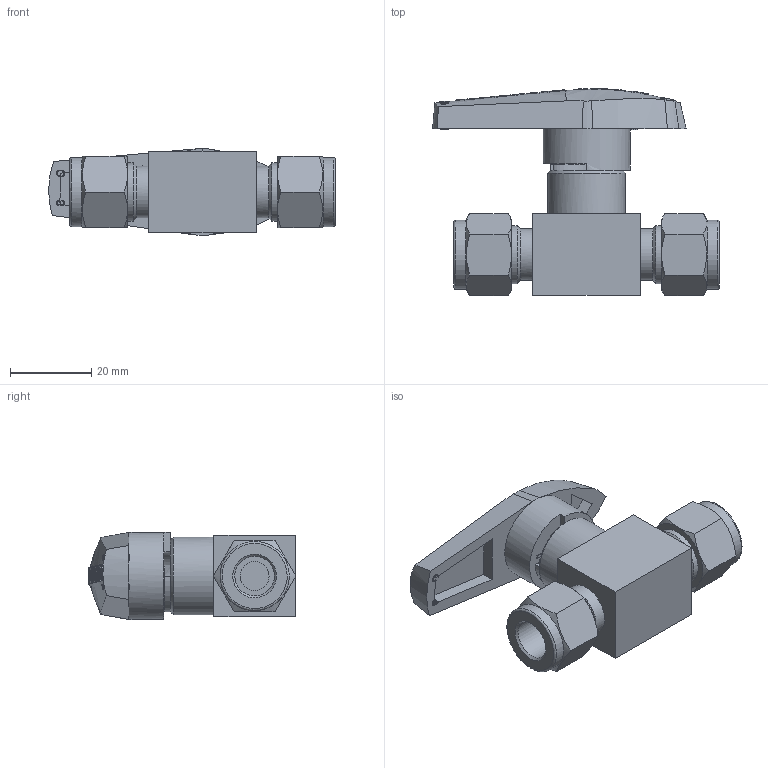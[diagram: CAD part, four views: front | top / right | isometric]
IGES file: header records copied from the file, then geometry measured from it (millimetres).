
Global section: file name: SBV120H2-S6-S316; native system: Autodesk Inventor 2016; preprocessor: unknown; author: 이승민,,11,0; organization: 20161215.102002; date: 20161216.191225; units: millimetre
Bounding box: 70.5 x 50.95 x 21.4 mm (x, y, z)
Volume: 27013.7 mm3; surface area: 11902.5 mm2
Topology: 2 solids, 2 shells, 446 faces, 1225 edges, 816 vertices
Faces by surface type: bspline 446
